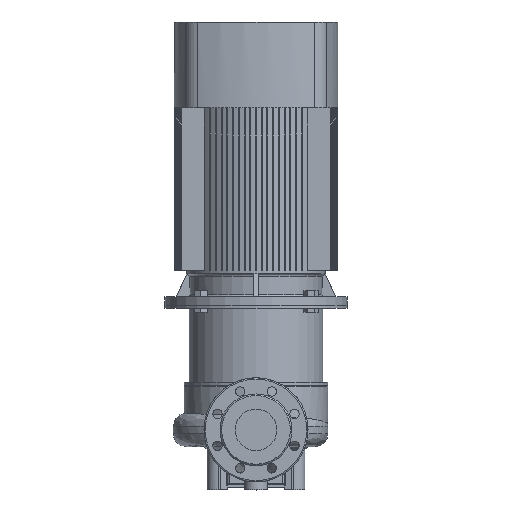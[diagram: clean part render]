
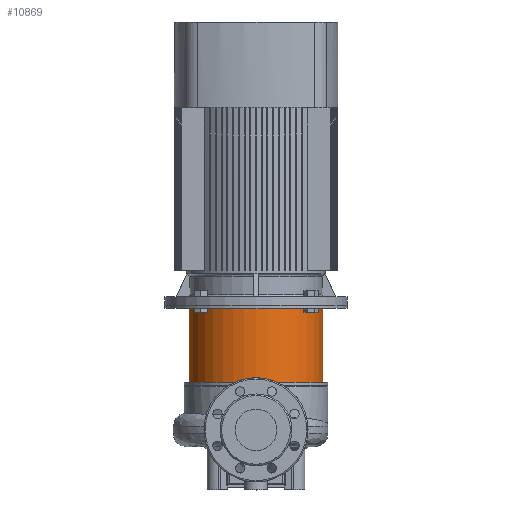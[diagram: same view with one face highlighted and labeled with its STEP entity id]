
A CAD part, top view. The second image highlights one B-rep face of the part: STEP entity #10869.
In plain terms, the highlighted cylindrical face has radius 128 mm (diameter 256 mm), a partial arc.
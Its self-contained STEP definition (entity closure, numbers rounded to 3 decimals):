
#742 = CARTESIAN_POINT ( 'NONE',  ( -128., 0., -148. ) ) ;
#1228 = EDGE_CURVE ( 'NONE', #22516, #11170, #13781, .T. ) ;
#1249 = LINE ( 'NONE', #25642, #18107 ) ;
#4241 = DIRECTION ( 'NONE',  ( 0., 0., 1. ) ) ;
#4359 = EDGE_CURVE ( 'NONE', #11170, #14267, #19507, .T. ) ;
#5309 = ORIENTED_EDGE ( 'NONE', *, *, #1228, .F. ) ;
#6016 = AXIS2_PLACEMENT_3D ( 'NONE', #18305, #27849, #15340 ) ;
#7027 = FACE_OUTER_BOUND ( 'NONE', #19053, .T. ) ;
#7650 = DIRECTION ( 'NONE',  ( 0., 0., 1. ) ) ;
#8282 = VECTOR ( 'NONE', #4241, 1000. ) ;
#8871 = EDGE_CURVE ( 'NONE', #12690, #14267, #1249, .T. ) ;
#9939 = CIRCLE ( 'NONE', #23455, 128. ) ;
#10001 = CARTESIAN_POINT ( 'NONE',  ( 0., 0., 14.36 ) ) ;
#10795 = DIRECTION ( 'NONE',  ( 0., 0., 1. ) ) ;
#10869 = ADVANCED_FACE ( 'NONE', ( #7027 ), #16578, .T. ) ;
#11170 = VERTEX_POINT ( 'NONE', #13878 ) ;
#11324 = DIRECTION ( 'NONE',  ( 0., 0., 1. ) ) ;
#11635 = DIRECTION ( 'NONE',  ( 1., 0., 0. ) ) ;
#12690 = VERTEX_POINT ( 'NONE', #18396 ) ;
#13488 = ORIENTED_EDGE ( 'NONE', *, *, #4359, .F. ) ;
#13781 = LINE ( 'NONE', #23333, #8282 ) ;
#13878 = CARTESIAN_POINT ( 'NONE',  ( -128., 0., -6. ) ) ;
#14267 = VERTEX_POINT ( 'NONE', #14468 ) ;
#14468 = CARTESIAN_POINT ( 'NONE',  ( 128., 0., -6. ) ) ;
#15340 = DIRECTION ( 'NONE',  ( 1., 0., 0. ) ) ;
#16578 = CYLINDRICAL_SURFACE ( 'NONE', #23560, 128. ) ;
#17207 = DIRECTION ( 'NONE',  ( 1., 0., 0. ) ) ;
#18107 = VECTOR ( 'NONE', #10795, 1000. ) ;
#18305 = CARTESIAN_POINT ( 'NONE',  ( 0., 0., -6. ) ) ;
#18396 = CARTESIAN_POINT ( 'NONE',  ( 128., 0., -148. ) ) ;
#18416 = ORIENTED_EDGE ( 'NONE', *, *, #8871, .T. ) ;
#19053 = EDGE_LOOP ( 'NONE', ( #5309, #27126, #18416, #13488 ) ) ;
#19507 = CIRCLE ( 'NONE', #6016, 128. ) ;
#22516 = VERTEX_POINT ( 'NONE', #742 ) ;
#23225 = CARTESIAN_POINT ( 'NONE',  ( 0., 0., -148. ) ) ;
#23333 = CARTESIAN_POINT ( 'NONE',  ( -128., 0., 14.36 ) ) ;
#23455 = AXIS2_PLACEMENT_3D ( 'NONE', #23225, #11324, #11635 ) ;
#23560 = AXIS2_PLACEMENT_3D ( 'NONE', #10001, #7650, #17207 ) ;
#25642 = CARTESIAN_POINT ( 'NONE',  ( 128., 0., 14.36 ) ) ;
#27126 = ORIENTED_EDGE ( 'NONE', *, *, #29162, .T. ) ;
#27849 = DIRECTION ( 'NONE',  ( 0., 0., 1. ) ) ;
#29162 = EDGE_CURVE ( 'NONE', #22516, #12690, #9939, .T. ) ;
